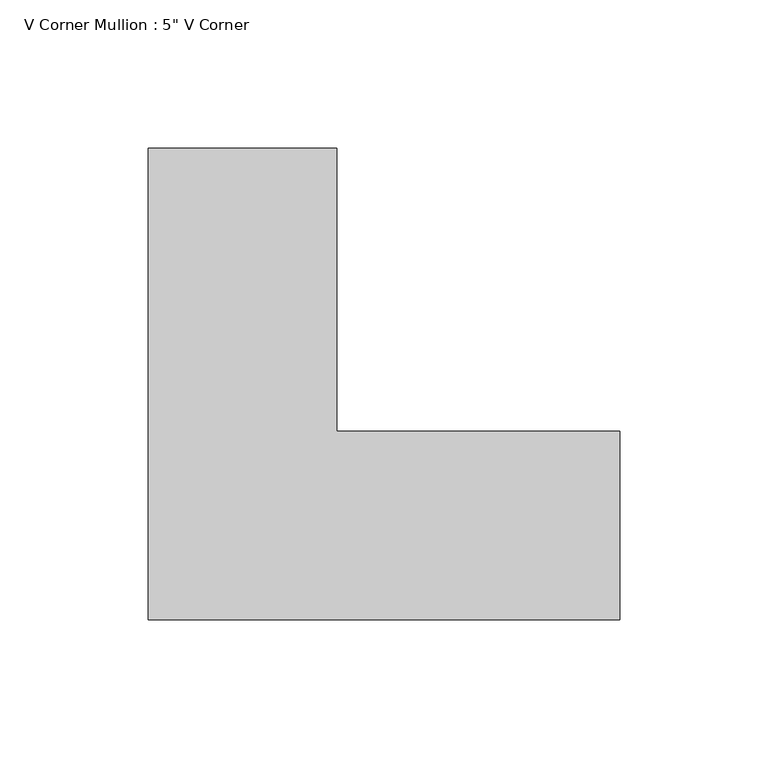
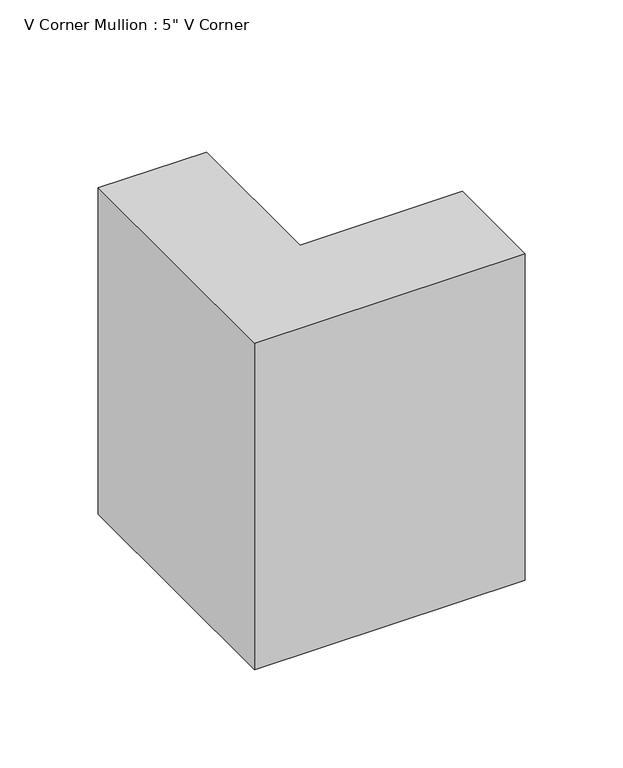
"""IFC4 building model written with IfcOpenShell, lengths in millimetres: member geometry."""

from ifc_helpers import new_model, si_unit, frame, origin, place, context, project, spatial, polyline, outline, extrude, source, transform, mapped, element, save


def member_8d9d8c11(model_context):
    return source(origin(), model_context, "Body", "SweptSolid", [
        extrude(outline(polyline([(63.5, -95.25), (-95.25, -95.25), (-95.25, 63.5), (-31.75, 63.5), (-31.75, -31.75), (63.5, -31.75), (63.5, -95.25)])), frame((0.0, 0.0, -202.5768789), z_axis=(0.0, 0.0, 1.0), x_axis=(1.0, 0.0, 0.0)), (0.0, 0.0, 1.0), 202.5768789),
    ])


if __name__ == "__main__":
    model = new_model("IFC4")
    model_context = context("Model", 3, world=origin())
    ifc_project = project(units=[si_unit("LENGTHUNIT", "METRE", prefix="MILLI")], contexts=[model_context])
    site = spatial("IfcSite", under=ifc_project)
    building = spatial("IfcBuilding", under=site)
    placement = place(None, origin())
    member_shape = member_8d9d8c11(model_context)
    element("IfcMember", 1, ObjectType="V Corner Mullion : 5\" V Corner", at=placement, inside=building, context=model_context, shape_type="MappedRepresentation", body=[
        mapped(member_shape, transform((0.0, 0.0, 0.0), x_axis=(1.0, 0.0, 0.0), y_axis=(0.0, 1.0, 0.0), z_axis=(0.0, 0.0, 1.0))),
    ])
    save(model, "model.ifc")
